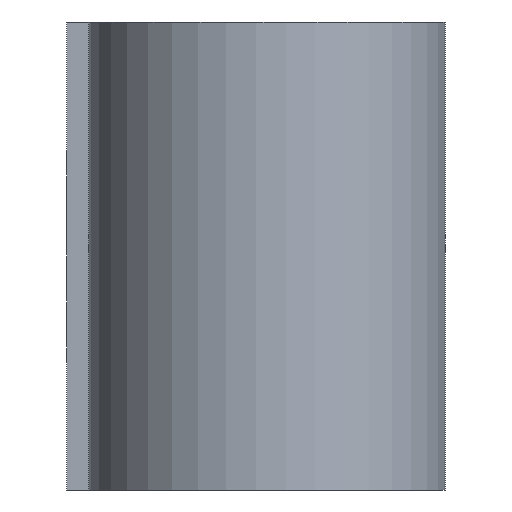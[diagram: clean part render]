
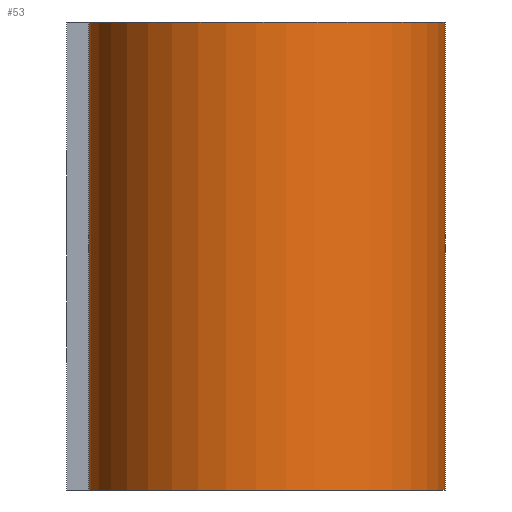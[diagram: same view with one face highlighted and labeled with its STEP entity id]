
A CAD part, left-side view. The second image highlights one B-rep face of the part: STEP entity #53.
In plain terms, the highlighted cylindrical face has radius 8 mm (diameter 16 mm), a partial arc.
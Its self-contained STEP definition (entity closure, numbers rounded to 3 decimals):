
#36 = CARTESIAN_POINT ( 'NONE',  ( 0., 8., -10.5 ) ) ;
#53 = ADVANCED_FACE ( 'NONE', ( #673 ), #934, .T. ) ;
#64 = VECTOR ( 'NONE', #1681, 1000. ) ;
#81 = CIRCLE ( 'NONE', #1928, 8. ) ;
#96 = ORIENTED_EDGE ( 'NONE', *, *, #1904, .T. ) ;
#101 = EDGE_CURVE ( 'NONE', #1159, #612, #517, .T. ) ;
#122 = VERTEX_POINT ( 'NONE', #1495 ) ;
#223 = ORIENTED_EDGE ( 'NONE', *, *, #1996, .T. ) ;
#230 = DIRECTION ( 'NONE',  ( 0., 0., 1. ) ) ;
#266 = VERTEX_POINT ( 'NONE', #2024 ) ;
#348 = ORIENTED_EDGE ( 'NONE', *, *, #1228, .F. ) ;
#517 = LINE ( 'NONE', #36, #64 ) ;
#573 = CARTESIAN_POINT ( 'NONE',  ( 0., 0., 10.5 ) ) ;
#612 = VERTEX_POINT ( 'NONE', #1545 ) ;
#638 = CIRCLE ( 'NONE', #834, 8. ) ;
#640 = CARTESIAN_POINT ( 'NONE',  ( 4.124, -6.855, -10.5 ) ) ;
#663 = LINE ( 'NONE', #640, #738 ) ;
#673 = FACE_OUTER_BOUND ( 'NONE', #1513, .T. ) ;
#681 = DIRECTION ( 'NONE',  ( 0., 0., 1. ) ) ;
#704 = AXIS2_PLACEMENT_3D ( 'NONE', #1039, #1191, #1026 ) ;
#738 = VECTOR ( 'NONE', #1751, 1000. ) ;
#834 = AXIS2_PLACEMENT_3D ( 'NONE', #1455, #681, #1480 ) ;
#934 = CYLINDRICAL_SURFACE ( 'NONE', #704, 8. ) ;
#1002 = CARTESIAN_POINT ( 'NONE',  ( 0., 8., -10.5 ) ) ;
#1026 = DIRECTION ( 'NONE',  ( 1., 0., 0. ) ) ;
#1039 = CARTESIAN_POINT ( 'NONE',  ( 0., 0., -10.5 ) ) ;
#1159 = VERTEX_POINT ( 'NONE', #1002 ) ;
#1191 = DIRECTION ( 'NONE',  ( 0., 0., 1. ) ) ;
#1228 = EDGE_CURVE ( 'NONE', #612, #122, #81, .T. ) ;
#1334 = ORIENTED_EDGE ( 'NONE', *, *, #101, .F. ) ;
#1365 = DIRECTION ( 'NONE',  ( 1., 0., 0. ) ) ;
#1455 = CARTESIAN_POINT ( 'NONE',  ( 0., 0., -10.5 ) ) ;
#1480 = DIRECTION ( 'NONE',  ( 1., 0., 0. ) ) ;
#1495 = CARTESIAN_POINT ( 'NONE',  ( 4.124, -6.855, 10.5 ) ) ;
#1513 = EDGE_LOOP ( 'NONE', ( #348, #1334, #223, #96 ) ) ;
#1545 = CARTESIAN_POINT ( 'NONE',  ( 0., 8., 10.5 ) ) ;
#1681 = DIRECTION ( 'NONE',  ( 0., 0., 1. ) ) ;
#1751 = DIRECTION ( 'NONE',  ( 0., 0., 1. ) ) ;
#1904 = EDGE_CURVE ( 'NONE', #266, #122, #663, .T. ) ;
#1928 = AXIS2_PLACEMENT_3D ( 'NONE', #573, #230, #1365 ) ;
#1996 = EDGE_CURVE ( 'NONE', #1159, #266, #638, .T. ) ;
#2024 = CARTESIAN_POINT ( 'NONE',  ( 4.124, -6.855, -10.5 ) ) ;
